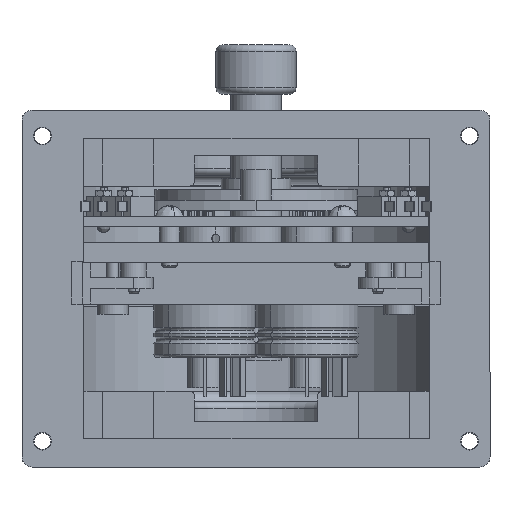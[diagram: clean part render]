
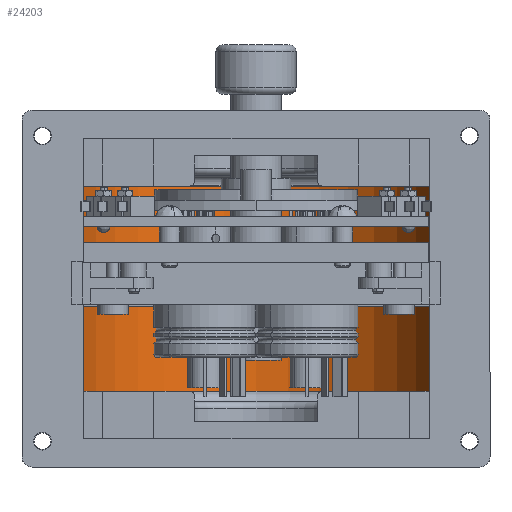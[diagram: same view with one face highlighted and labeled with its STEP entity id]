
A CAD part, front view. The second image highlights one B-rep face of the part: STEP entity #24203.
In plain terms, the highlighted cylindrical face has radius 57.531 mm (diameter 115.062 mm), a partial arc.
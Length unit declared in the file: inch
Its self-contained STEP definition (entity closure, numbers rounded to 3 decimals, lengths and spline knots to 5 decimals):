
#901 = DIRECTION ( 'NONE',  ( 0., 0., 1. ) ) ;
#4230 = AXIS2_PLACEMENT_3D ( 'NONE', #33830, #42511, #5522 ) ;
#4696 = ORIENTED_EDGE ( 'NONE', *, *, #35868, .T. ) ;
#5055 = CARTESIAN_POINT ( 'NONE',  ( -2.265, 0.58, -1.26 ) ) ;
#5188 = DIRECTION ( 'NONE',  ( 1., 0., 0. ) ) ;
#5300 = EDGE_CURVE ( 'NONE', #36984, #10612, #36171, .T. ) ;
#5522 = DIRECTION ( 'NONE',  ( 1., 0., 0. ) ) ;
#7336 = LINE ( 'NONE', #27579, #28306 ) ;
#9001 = CARTESIAN_POINT ( 'NONE',  ( 2.265, 0.58, 1.26 ) ) ;
#9156 = LINE ( 'NONE', #5055, #28148 ) ;
#9281 = CARTESIAN_POINT ( 'NONE',  ( 0., 0.58, 2.3375 ) ) ;
#10137 = ORIENTED_EDGE ( 'NONE', *, *, #5300, .F. ) ;
#10612 = VERTEX_POINT ( 'NONE', #41947 ) ;
#13139 = VERTEX_POINT ( 'NONE', #9001 ) ;
#15697 = ORIENTED_EDGE ( 'NONE', *, *, #49178, .F. ) ;
#20161 = EDGE_CURVE ( 'NONE', #36984, #13139, #7336, .T. ) ;
#21511 = AXIS2_PLACEMENT_3D ( 'NONE', #23138, #32308, #53057 ) ;
#23138 = CARTESIAN_POINT ( 'NONE',  ( 0., 0.58, 1.26 ) ) ;
#24203 = ADVANCED_FACE ( 'NONE', ( #37707 ), #54738, .F. ) ;
#27579 = CARTESIAN_POINT ( 'NONE',  ( 2.265, 0.58, -1.26 ) ) ;
#28148 = VECTOR ( 'NONE', #901, 39.37008 ) ;
#28306 = VECTOR ( 'NONE', #35979, 39.37008 ) ;
#28529 = ORIENTED_EDGE ( 'NONE', *, *, #20161, .T. ) ;
#30932 = DIRECTION ( 'NONE',  ( 0., 0., 1. ) ) ;
#32308 = DIRECTION ( 'NONE',  ( 0., 0., 1. ) ) ;
#33273 = EDGE_LOOP ( 'NONE', ( #4696, #15697, #10137, #28529 ) ) ;
#33830 = CARTESIAN_POINT ( 'NONE',  ( 0., 0.58, -1.26 ) ) ;
#34753 = AXIS2_PLACEMENT_3D ( 'NONE', #9281, #30932, #5188 ) ;
#34833 = VERTEX_POINT ( 'NONE', #41838 ) ;
#35362 = CARTESIAN_POINT ( 'NONE',  ( 2.265, 0.58, -1.26 ) ) ;
#35868 = EDGE_CURVE ( 'NONE', #13139, #34833, #50931, .T. ) ;
#35979 = DIRECTION ( 'NONE',  ( 0., 0., 1. ) ) ;
#36171 = CIRCLE ( 'NONE', #4230, 2.265 ) ;
#36984 = VERTEX_POINT ( 'NONE', #35362 ) ;
#37707 = FACE_OUTER_BOUND ( 'NONE', #33273, .T. ) ;
#41838 = CARTESIAN_POINT ( 'NONE',  ( -2.265, 0.58, 1.26 ) ) ;
#41947 = CARTESIAN_POINT ( 'NONE',  ( -2.265, 0.58, -1.26 ) ) ;
#42511 = DIRECTION ( 'NONE',  ( 0., 0., 1. ) ) ;
#49178 = EDGE_CURVE ( 'NONE', #10612, #34833, #9156, .T. ) ;
#50931 = CIRCLE ( 'NONE', #21511, 2.265 ) ;
#53057 = DIRECTION ( 'NONE',  ( 1., 0., 0. ) ) ;
#54738 = CYLINDRICAL_SURFACE ( 'NONE', #34753, 2.265 ) ;
